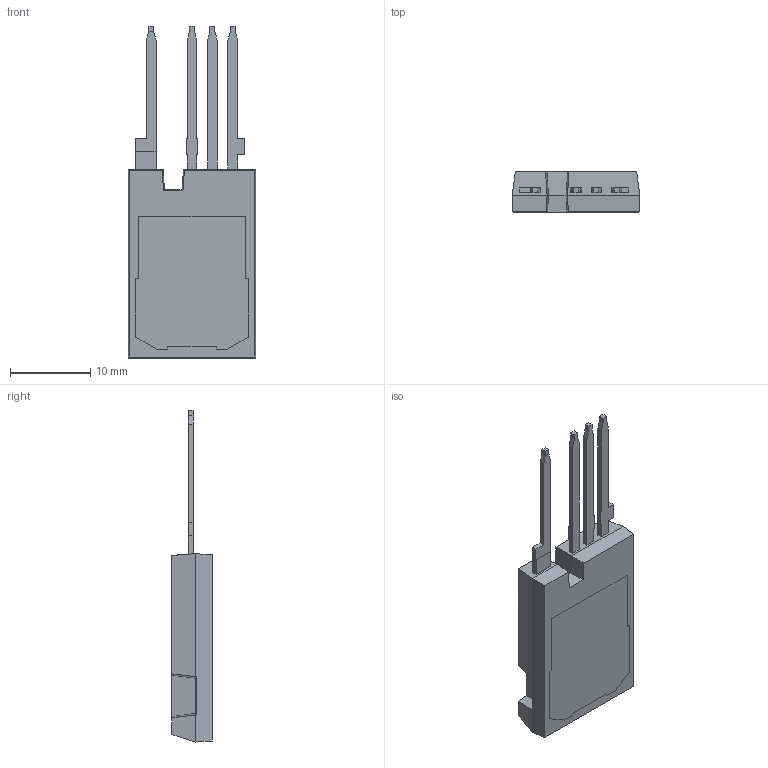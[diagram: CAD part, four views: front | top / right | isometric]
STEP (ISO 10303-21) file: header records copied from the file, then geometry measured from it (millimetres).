
FILE_DESCRIPTION (( 'STEP AP214' ), '1' );
FILE_NAME ('TO-247-4L-Plus_Mktg.STEP', '2022-07-20T12:49:13', ( '' ), ( '' ), 'SwSTEP 2.0', 'SolidWorks 2021', '' );
FILE_SCHEMA (( 'AUTOMOTIVE_DESIGN' ));
Length unit declared in the file: millimetre
Products named in the file (3): TO-247-4L-LF_Plus; TO-247-4L-Plus_Mktg; TO-247-4L_EMC_Plus
Assembly tree (2 placements, depth 2):
  TO-247-4L-Plus_Mktg
    TO-247-4L-LF_Plus
    TO-247-4L_EMC_Plus
Bounding box: 15.94 x 5.02 x 41.35 mm (x, y, z)
Volume: 1786.1 mm3; surface area: 2359.4 mm2
Topology: 5 solids, 5 shells, 221 faces, 581 edges, 372 vertices
Faces by surface type: plane 215, cylinder 6
Entity records: 6769 total; most frequent: CARTESIAN_POINT 1182, ORIENTED_EDGE 1162, DIRECTION 1044, EDGE_CURVE 581, VECTOR 568, LINE 568, VERTEX_POINT 372, AXIS2_PLACEMENT_3D 238
